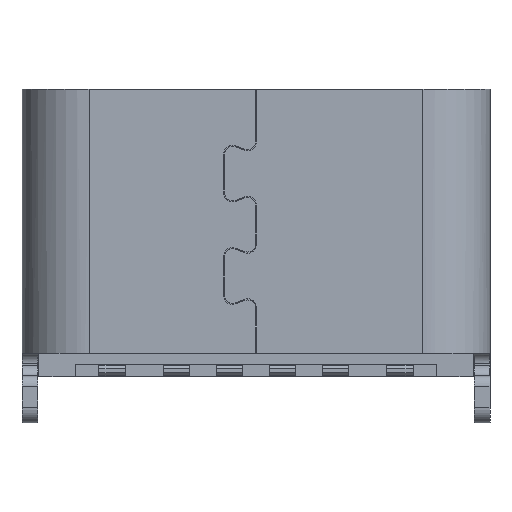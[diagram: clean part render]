
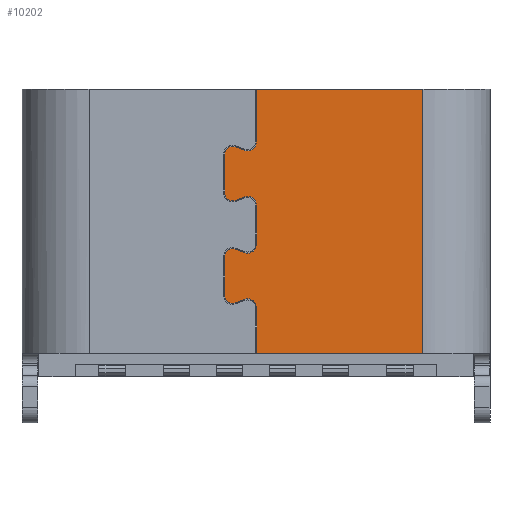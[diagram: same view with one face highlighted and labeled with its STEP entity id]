
A CAD part, front view. The second image highlights one B-rep face of the part: STEP entity #10202.
In plain terms, the highlighted planar face has unit normal (0, -1, 0).
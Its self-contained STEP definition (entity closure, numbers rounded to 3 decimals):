
#879=DIRECTION('',(1.,0.,0.));
#880=VECTOR('',#879,3.18);
#881=CARTESIAN_POINT('',(0.01,-1.58,4.9));
#882=LINE('',#881,#880);
#1333=DIRECTION('',(0.,0.,1.));
#1334=VECTOR('',#1333,5.05);
#1335=CARTESIAN_POINT('',(3.19,-1.58,-0.15));
#1336=LINE('',#1335,#1334);
#1368=DIRECTION('',(0.,0.,1.));
#1369=VECTOR('',#1368,1.011);
#1370=CARTESIAN_POINT('',(0.01,-1.58,3.889));
#1371=LINE('',#1370,#1369);
#1372=DIRECTION('',(-1.,0.,0.));
#1373=VECTOR('',#1372,3.18);
#1374=CARTESIAN_POINT('',(3.19,-1.58,-0.15));
#1375=LINE('',#1374,#1373);
#1376=CARTESIAN_POINT('',(-0.16,-1.58,0.721));
#1377=DIRECTION('',(0.,-1.,0.));
#1378=DIRECTION('',(1.,0.,0.));
#1379=AXIS2_PLACEMENT_3D('',#1376,#1377,#1378);
#1381=DIRECTION('',(-0.94,0.,-0.342));
#1382=VECTOR('',#1381,0.192);
#1383=CARTESIAN_POINT('',(-0.218,-1.58,0.881));
#1384=LINE('',#1383,#1382);
#1385=CARTESIAN_POINT('',(-0.45,-1.58,0.956));
#1386=DIRECTION('',(0.,1.,0.));
#1387=DIRECTION('',(0.342,0.,-0.94));
#1388=AXIS2_PLACEMENT_3D('',#1385,#1386,#1387);
#1390=CARTESIAN_POINT('',(-0.45,-1.58,1.699));
#1391=DIRECTION('',(0.,1.,0.));
#1392=DIRECTION('',(-1.,0.,0.));
#1393=AXIS2_PLACEMENT_3D('',#1390,#1391,#1392);
#1395=DIRECTION('',(0.94,0.,-0.342));
#1396=VECTOR('',#1395,0.192);
#1397=CARTESIAN_POINT('',(-0.399,-1.58,1.84));
#1398=LINE('',#1397,#1396);
#1399=CARTESIAN_POINT('',(-0.16,-1.58,1.934));
#1400=DIRECTION('',(0.,-1.,0.));
#1401=DIRECTION('',(-0.342,0.,-0.94));
#1402=AXIS2_PLACEMENT_3D('',#1399,#1400,#1401);
#1404=CARTESIAN_POINT('',(-0.16,-1.58,2.677));
#1405=DIRECTION('',(0.,-1.,0.));
#1406=DIRECTION('',(1.,0.,0.));
#1407=AXIS2_PLACEMENT_3D('',#1404,#1405,#1406);
#1409=DIRECTION('',(-0.94,0.,-0.342));
#1410=VECTOR('',#1409,0.192);
#1411=CARTESIAN_POINT('',(-0.218,-1.58,2.837));
#1412=LINE('',#1411,#1410);
#1413=CARTESIAN_POINT('',(-0.45,-1.58,2.912));
#1414=DIRECTION('',(0.,1.,0.));
#1415=DIRECTION('',(0.342,0.,-0.94));
#1416=AXIS2_PLACEMENT_3D('',#1413,#1414,#1415);
#1418=CARTESIAN_POINT('',(-0.45,-1.58,3.655));
#1419=DIRECTION('',(0.,1.,0.));
#1420=DIRECTION('',(-1.,0.,0.));
#1421=AXIS2_PLACEMENT_3D('',#1418,#1419,#1420);
#1423=DIRECTION('',(0.939,0.,-0.345));
#1424=VECTOR('',#1423,0.191);
#1425=CARTESIAN_POINT('',(-0.398,-1.58,3.796));
#1426=LINE('',#1425,#1424);
#1427=CARTESIAN_POINT('',(-0.16,-1.58,3.889));
#1428=DIRECTION('',(0.,-1.,0.));
#1429=DIRECTION('',(-0.345,0.,-0.939));
#1430=AXIS2_PLACEMENT_3D('',#1427,#1428,#1429);
#2513=DIRECTION('',(0.,0.,-1.));
#2514=VECTOR('',#2513,0.871);
#2515=CARTESIAN_POINT('',(0.01,-1.58,0.721));
#2516=LINE('',#2515,#2514);
#2533=DIRECTION('',(0.,0.,-1.));
#2534=VECTOR('',#2533,0.743);
#2535=CARTESIAN_POINT('',(-0.6,-1.58,1.699));
#2536=LINE('',#2535,#2534);
#2553=DIRECTION('',(0.,0.,-1.));
#2554=VECTOR('',#2553,0.743);
#2555=CARTESIAN_POINT('',(0.01,-1.58,2.677));
#2556=LINE('',#2555,#2554);
#2573=DIRECTION('',(0.,0.,-1.));
#2574=VECTOR('',#2573,0.742);
#2575=CARTESIAN_POINT('',(-0.6,-1.58,3.655));
#2576=LINE('',#2575,#2574);
#7123=CARTESIAN_POINT('',(3.19,-1.58,-0.15));
#7124=VERTEX_POINT('',#7123);
#7126=CARTESIAN_POINT('',(0.01,-1.58,-0.15));
#7127=VERTEX_POINT('',#7126);
#7518=CARTESIAN_POINT('',(-0.399,-1.58,1.84));
#7519=CARTESIAN_POINT('',(-0.218,-1.58,1.775));
#7520=VERTEX_POINT('',#7518);
#7521=VERTEX_POINT('',#7519);
#7522=CARTESIAN_POINT('',(0.01,-1.58,1.934));
#7523=VERTEX_POINT('',#7522);
#7524=CARTESIAN_POINT('',(0.01,-1.58,2.677));
#7525=VERTEX_POINT('',#7524);
#7526=CARTESIAN_POINT('',(-0.218,-1.58,2.837));
#7527=VERTEX_POINT('',#7526);
#7528=CARTESIAN_POINT('',(-0.399,-1.58,2.771));
#7529=VERTEX_POINT('',#7528);
#7530=CARTESIAN_POINT('',(-0.6,-1.58,2.912));
#7531=VERTEX_POINT('',#7530);
#7532=CARTESIAN_POINT('',(-0.6,-1.58,3.655));
#7533=VERTEX_POINT('',#7532);
#7534=CARTESIAN_POINT('',(-0.398,-1.58,3.796));
#7535=VERTEX_POINT('',#7534);
#7536=CARTESIAN_POINT('',(-0.219,-1.58,3.73));
#7537=VERTEX_POINT('',#7536);
#7538=CARTESIAN_POINT('',(0.01,-1.58,3.889));
#7539=VERTEX_POINT('',#7538);
#7540=CARTESIAN_POINT('',(0.01,-1.58,0.721));
#7541=VERTEX_POINT('',#7540);
#7542=CARTESIAN_POINT('',(-0.218,-1.58,0.881));
#7543=VERTEX_POINT('',#7542);
#7544=CARTESIAN_POINT('',(-0.399,-1.58,0.816));
#7545=VERTEX_POINT('',#7544);
#7546=CARTESIAN_POINT('',(-0.6,-1.58,0.956));
#7547=VERTEX_POINT('',#7546);
#7548=CARTESIAN_POINT('',(-0.6,-1.58,1.699));
#7549=VERTEX_POINT('',#7548);
#8495=CARTESIAN_POINT('',(0.01,-1.58,4.9));
#8496=CARTESIAN_POINT('',(3.19,-1.58,4.9));
#8497=VERTEX_POINT('',#8495);
#8498=VERTEX_POINT('',#8496);
#10158=CARTESIAN_POINT('',(3.19,-1.58,4.68));
#10159=DIRECTION('',(0.,1.,0.));
#10160=DIRECTION('',(-1.,0.,0.));
#10161=AXIS2_PLACEMENT_3D('',#10158,#10159,#10160);
#10162=PLANE('',#10161);
#10163=ORIENTED_EDGE('',*,*,#9440,.T.);
#10164=ORIENTED_EDGE('',*,*,#9488,.T.);
#10165=ORIENTED_EDGE('',*,*,#10132,.F.);
#10167=ORIENTED_EDGE('',*,*,#10166,.T.);
#10169=ORIENTED_EDGE('',*,*,#10168,.F.);
#10171=ORIENTED_EDGE('',*,*,#10170,.T.);
#10173=ORIENTED_EDGE('',*,*,#10172,.T.);
#10175=ORIENTED_EDGE('',*,*,#10174,.T.);
#10177=ORIENTED_EDGE('',*,*,#10176,.F.);
#10179=ORIENTED_EDGE('',*,*,#10178,.T.);
#10181=ORIENTED_EDGE('',*,*,#10180,.T.);
#10183=ORIENTED_EDGE('',*,*,#10182,.T.);
#10185=ORIENTED_EDGE('',*,*,#10184,.F.);
#10187=ORIENTED_EDGE('',*,*,#10186,.T.);
#10189=ORIENTED_EDGE('',*,*,#10188,.T.);
#10191=ORIENTED_EDGE('',*,*,#10190,.T.);
#10193=ORIENTED_EDGE('',*,*,#10192,.F.);
#10195=ORIENTED_EDGE('',*,*,#10194,.T.);
#10197=ORIENTED_EDGE('',*,*,#10196,.T.);
#10199=ORIENTED_EDGE('',*,*,#10198,.T.);
#10200=EDGE_LOOP('',(#10163,#10164,#10165,#10167,#10169,#10171,#10173,#10175,
#10177,#10179,#10181,#10183,#10185,#10187,#10189,#10191,#10193,#10195,#10197,
#10199));
#10201=FACE_OUTER_BOUND('',#10200,.F.);
#1380=CIRCLE('',#1379,0.17);
#1389=CIRCLE('',#1388,0.15);
#1394=CIRCLE('',#1393,0.15);
#1403=CIRCLE('',#1402,0.17);
#1408=CIRCLE('',#1407,0.17);
#1417=CIRCLE('',#1416,0.15);
#1422=CIRCLE('',#1421,0.15);
#1431=CIRCLE('',#1430,0.17);
#9440=EDGE_CURVE('',#7539,#8497,#1371,.T.);
#9488=EDGE_CURVE('',#8497,#8498,#882,.T.);
#10132=EDGE_CURVE('',#7124,#8498,#1336,.T.);
#10166=EDGE_CURVE('',#7124,#7127,#1375,.T.);
#10168=EDGE_CURVE('',#7541,#7127,#2516,.T.);
#10170=EDGE_CURVE('',#7541,#7543,#1380,.T.);
#10172=EDGE_CURVE('',#7543,#7545,#1384,.T.);
#10174=EDGE_CURVE('',#7545,#7547,#1389,.T.);
#10176=EDGE_CURVE('',#7549,#7547,#2536,.T.);
#10178=EDGE_CURVE('',#7549,#7520,#1394,.T.);
#10180=EDGE_CURVE('',#7520,#7521,#1398,.T.);
#10182=EDGE_CURVE('',#7521,#7523,#1403,.T.);
#10184=EDGE_CURVE('',#7525,#7523,#2556,.T.);
#10186=EDGE_CURVE('',#7525,#7527,#1408,.T.);
#10188=EDGE_CURVE('',#7527,#7529,#1412,.T.);
#10190=EDGE_CURVE('',#7529,#7531,#1417,.T.);
#10192=EDGE_CURVE('',#7533,#7531,#2576,.T.);
#10194=EDGE_CURVE('',#7533,#7535,#1422,.T.);
#10196=EDGE_CURVE('',#7535,#7537,#1426,.T.);
#10198=EDGE_CURVE('',#7537,#7539,#1431,.T.);
#10202=ADVANCED_FACE('',(#10201),#10162,.F.);
